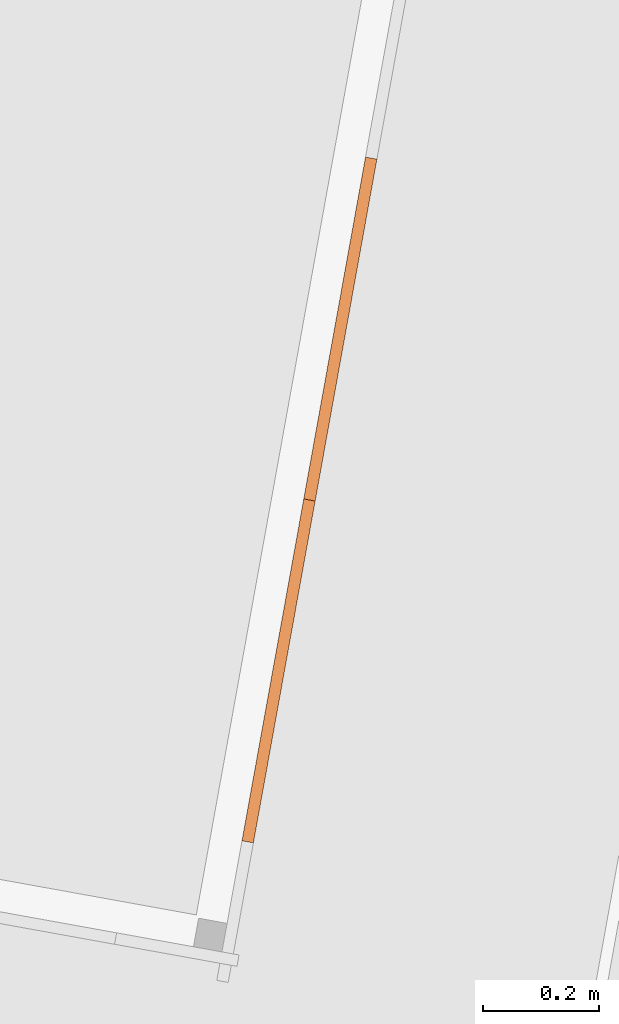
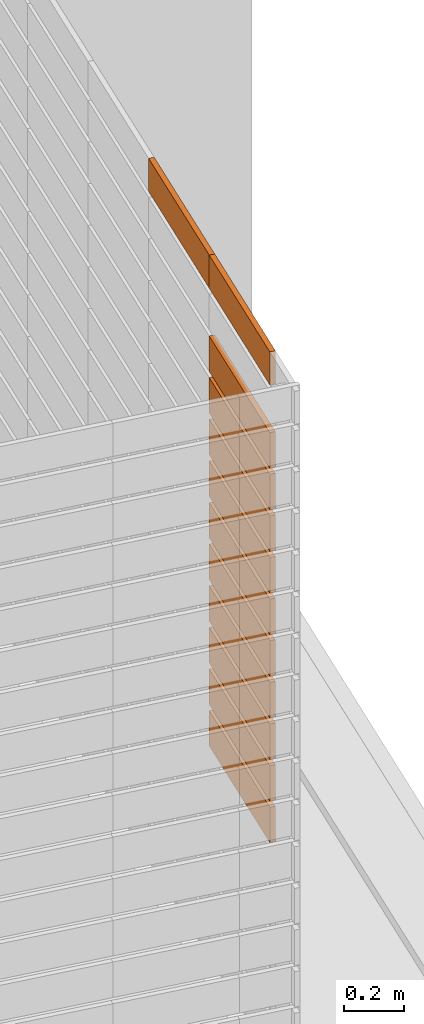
# One storey, part 31 of 52: 12 proxies, 1 element without a shape of its own.
"""IFC2X3 building model written with IfcOpenShell, lengths in metres."""

from ifc_helpers import new_model, entity, si_unit, converted_unit, derived_unit, money_unit, direction, frame, origin_with_axes, place, context, subcontext, project, spatial, polyline, outline, extrude, material, type_object, element, aggregate, save


model = new_model("IFC2X3")

# Units and contexts
model_context = context("Model", 3, precision=1e-05, world=origin_with_axes(), true_north=direction((0.0, 1.0)))
body_context = subcontext(model_context, "Body", "Model", "MODEL_VIEW")
ifc_project = project(units=[si_unit("LENGTHUNIT", "METRE"), si_unit("AREAUNIT", "SQUARE_METRE"), si_unit("VOLUMEUNIT", "CUBIC_METRE"), converted_unit("PLANEANGLEUNIT", "DEGREE", entity("IfcPlaneAngleMeasure", 0.0174532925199), si_unit("PLANEANGLEUNIT", "RADIAN"), dimensions=[0, 0, 0, 0, 0, 0, 0]), money_unit("CHF"), converted_unit("TIMEUNIT", "Year", entity("IfcTimeMeasure", 31556926.0), si_unit("TIMEUNIT", "SECOND"), dimensions=[0, 0, 1, 0, 0, 0, 0]), si_unit("MASSUNIT", "GRAM", prefix="KILO"), si_unit("THERMODYNAMICTEMPERATUREUNIT", "DEGREE_CELSIUS"), si_unit("LUMINOUSINTENSITYUNIT", "LUMEN"), si_unit("ENERGYUNIT", "JOULE", prefix="MEGA"), derived_unit("THERMALCONDUCTANCEUNIT", [(si_unit("POWERUNIT", "WATT"), 1), (si_unit("LENGTHUNIT", "METRE"), -1), (si_unit("THERMODYNAMICTEMPERATUREUNIT", "KELVIN"), -1)]), derived_unit("SPECIFICHEATCAPACITYUNIT", [(si_unit("ENERGYUNIT", "JOULE"), 1), (si_unit("MASSUNIT", "GRAM", prefix="KILO"), -1), (si_unit("THERMODYNAMICTEMPERATUREUNIT", "KELVIN"), -1)]), derived_unit("MASSDENSITYUNIT", [(si_unit("MASSUNIT", "GRAM", prefix="KILO"), 1), (si_unit("VOLUMEUNIT", "CUBIC_METRE"), -1)])], contexts=[model_context])

# Site, building, storey
site_placement = place(None, frame((0.0, 0.0, 0.0), z_axis=(0.0, 0.0, 1.0), x_axis=(-0.177771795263, -0.984071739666, 0.0)))
site = spatial("IfcSite", under=ifc_project, at=site_placement, Name="Site", CompositionType="ELEMENT")
building_placement = place(site_placement, origin_with_axes())
building = spatial("IfcBuilding", under=site, at=building_placement, Name="Bâtiment", CompositionType="ELEMENT")
storey_placement = place(building_placement, frame((0.0, 0.0, 3.2), z_axis=(0.0, 0.0, 1.0), x_axis=(1.0, 0.0, 0.0)))
storey = spatial("IfcBuildingStorey", under=building, at=storey_placement, Name="R+1", CompositionType="ELEMENT", Elevation=3.2)

# Curtain wall, proxies
curtain_wall_type = type_object("IfcCurtainWallType", Name="Type de mur-rideau", PredefinedType="NOTDEFINED")
curtain_wall_placement = place(storey_placement, frame((0.0, 0.0, -3.2), z_axis=(0.0, 0.0, 1.0), x_axis=(1.0, 0.0, 0.0)))
curtain_wall = element("IfcCurtainWall", 1, at=curtain_wall_placement, inside=storey, type_object=curtain_wall_type, Name="pare-vue CTA")
ifc_material = material(Name="Matériau de construction IFC")
building_element_proxy_type_1 = type_object("IfcBuildingElementProxyType", Name="Panneau principal 600 x 170 x 20", PredefinedType="NOTDEFINED")
proxy_1_placement = place(curtain_wall_placement, frame((140.854841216, -149.172151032, 4.1475), z_axis=(0.0, 0.0, 1.0), x_axis=(-1.0, 0.0, 0.0)))
proxy_1 = element("IfcBuildingElementProxy", 2, at=proxy_1_placement, type_object=building_element_proxy_type_1, material=ifc_material, Name="Panel-Main-512", context=body_context, shape_type="SweptSolid", body=[
    extrude(outline(polyline([(-0.3, -0.0725), (0.3, -0.0725), (0.3, 0.0725), (-0.3, 0.0725), (-0.3, -0.0725)])), frame((0.0, -0.00999999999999, 0.0), z_axis=(0.0, 1.0, 0.0), x_axis=(1.0, 0.0, 0.0)), (0.0, 0.0, 1.0), 0.02),
])
proxy_2_placement = place(curtain_wall_placement, frame((140.854841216, -149.172151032, 4.3175), z_axis=(0.0, 0.0, 1.0), x_axis=(-1.0, 0.0, 0.0)))
proxy_2 = element("IfcBuildingElementProxy", 3, at=proxy_2_placement, type_object=building_element_proxy_type_1, material=ifc_material, Name="Panel-Main-513", context=body_context, shape_type="SweptSolid", body=[
    extrude(outline(polyline([(-0.3, -0.0725), (0.3, -0.0725), (0.3, 0.0725), (-0.3, 0.0725), (-0.3, -0.0725)])), frame((0.0, -0.00999999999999, 0.0), z_axis=(0.0, 1.0, 0.0), x_axis=(1.0, 0.0, 0.0)), (0.0, 0.0, 1.0), 0.02),
])
proxy_3_placement = place(curtain_wall_placement, frame((140.854841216, -149.172151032, 4.4875), z_axis=(0.0, 0.0, 1.0), x_axis=(-1.0, 0.0, 0.0)))
proxy_3 = element("IfcBuildingElementProxy", 4, at=proxy_3_placement, type_object=building_element_proxy_type_1, material=ifc_material, Name="Panel-Main-514", context=body_context, shape_type="SweptSolid", body=[
    extrude(outline(polyline([(-0.3, -0.0725), (0.3, -0.0725), (0.3, 0.0725), (-0.3, 0.0725), (-0.3, -0.0725)])), frame((0.0, -0.00999999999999, 0.0), z_axis=(0.0, 1.0, 0.0), x_axis=(1.0, 0.0, 0.0)), (0.0, 0.0, 1.0), 0.02),
])
proxy_4_placement = place(curtain_wall_placement, frame((140.854841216, -149.172151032, 4.6575), z_axis=(0.0, 0.0, 1.0), x_axis=(-1.0, 0.0, 0.0)))
proxy_4 = element("IfcBuildingElementProxy", 5, at=proxy_4_placement, type_object=building_element_proxy_type_1, material=ifc_material, Name="Panel-Main-515", context=body_context, shape_type="SweptSolid", body=[
    extrude(outline(polyline([(-0.3, -0.0725), (0.3, -0.0725), (0.3, 0.0725), (-0.3, 0.0725), (-0.3, -0.0725)])), frame((0.0, -0.00999999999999, 0.0), z_axis=(0.0, 1.0, 0.0), x_axis=(1.0, 0.0, 0.0)), (0.0, 0.0, 1.0), 0.02),
])
proxy_5_placement = place(curtain_wall_placement, frame((140.854841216, -149.172151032, 4.8275), z_axis=(0.0, 0.0, 1.0), x_axis=(-1.0, 0.0, 0.0)))
proxy_5 = element("IfcBuildingElementProxy", 6, at=proxy_5_placement, type_object=building_element_proxy_type_1, material=ifc_material, Name="Panel-Main-516", context=body_context, shape_type="SweptSolid", body=[
    extrude(outline(polyline([(-0.3, -0.0725), (0.3, -0.0725), (0.3, 0.0725), (-0.3, 0.0725), (-0.3, -0.0725)])), frame((0.0, -0.00999999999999, 0.0), z_axis=(0.0, 1.0, 0.0), x_axis=(1.0, 0.0, 0.0)), (0.0, 0.0, 1.0), 0.02),
])
proxy_6_placement = place(curtain_wall_placement, frame((140.854841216, -149.172151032, 4.9975), z_axis=(0.0, 0.0, 1.0), x_axis=(-1.0, 0.0, 0.0)))
proxy_6 = element("IfcBuildingElementProxy", 7, at=proxy_6_placement, type_object=building_element_proxy_type_1, material=ifc_material, Name="Panel-Main-517", context=body_context, shape_type="SweptSolid", body=[
    extrude(outline(polyline([(-0.3, -0.0725), (0.3, -0.0725), (0.3, 0.0725), (-0.3, 0.0725), (-0.3, -0.0725)])), frame((0.0, -0.00999999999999, 0.0), z_axis=(0.0, 1.0, 0.0), x_axis=(1.0, 0.0, 0.0)), (0.0, 0.0, 1.0), 0.02),
])
proxy_7_placement = place(curtain_wall_placement, frame((140.854841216, -149.172151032, 5.3375), z_axis=(0.0, 0.0, 1.0), x_axis=(-1.0, 0.0, 0.0)))
proxy_7 = element("IfcBuildingElementProxy", 8, at=proxy_7_placement, type_object=building_element_proxy_type_1, material=ifc_material, Name="Panel-Main-519", context=body_context, shape_type="SweptSolid", body=[
    extrude(outline(polyline([(-0.3, -0.0725), (0.3, -0.0725), (0.3, 0.0725), (-0.3, 0.0725), (-0.3, -0.0725)])), frame((0.0, -0.00999999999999, 0.0), z_axis=(0.0, 1.0, 0.0), x_axis=(1.0, 0.0, 0.0)), (0.0, 0.0, 1.0), 0.02),
])
proxy_8_placement = place(curtain_wall_placement, frame((140.854841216, -149.172151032, 5.5075), z_axis=(0.0, 0.0, 1.0), x_axis=(-1.0, 0.0, 0.0)))
proxy_8 = element("IfcBuildingElementProxy", 9, at=proxy_8_placement, type_object=building_element_proxy_type_1, material=ifc_material, Name="Panel-Main-520", context=body_context, shape_type="SweptSolid", body=[
    extrude(outline(polyline([(-0.3, -0.0725), (0.3, -0.0725), (0.3, 0.0725), (-0.3, 0.0725), (-0.3, -0.0725)])), frame((0.0, -0.00999999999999, 0.0), z_axis=(0.0, 1.0, 0.0), x_axis=(1.0, 0.0, 0.0)), (0.0, 0.0, 1.0), 0.02),
])
proxy_9_placement = place(curtain_wall_placement, frame((140.854841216, -149.172151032, 5.6775), z_axis=(0.0, 0.0, 1.0), x_axis=(-1.0, 0.0, 0.0)))
proxy_9 = element("IfcBuildingElementProxy", 10, at=proxy_9_placement, type_object=building_element_proxy_type_1, material=ifc_material, Name="Panel-Main-521", context=body_context, shape_type="SweptSolid", body=[
    extrude(outline(polyline([(-0.3, -0.0725), (0.3, -0.0725), (0.3, 0.0725), (-0.3, 0.0725), (-0.3, -0.0725)])), frame((0.0, -0.00999999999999, 0.0), z_axis=(0.0, 1.0, 0.0), x_axis=(1.0, 0.0, 0.0)), (0.0, 0.0, 1.0), 0.02),
])
building_element_proxy_type_2 = type_object("IfcBuildingElementProxyType", Name="600 x 170 x 20", PredefinedType="NOTDEFINED")
proxy_10_placement = place(curtain_wall_placement, frame((140.854841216, -149.172151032, 5.1675), z_axis=(0.0, 0.0, 1.0), x_axis=(-1.0, 0.0, 0.0)))
proxy_10 = element("IfcBuildingElementProxy", 11, at=proxy_10_placement, type_object=building_element_proxy_type_2, material=ifc_material, Name="Panel-Main-190", context=body_context, shape_type="SweptSolid", body=[
    extrude(outline(polyline([(-0.3, -0.0725), (0.3, -0.0725), (0.3, 0.0725), (-0.3, 0.0725), (-0.3, -0.0725)])), frame((0.0, -0.00999999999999, 0.0), z_axis=(0.0, 1.0, 0.0), x_axis=(1.0, 0.0, 0.0)), (0.0, 0.0, 1.0), 0.02),
])
building_element_proxy_type_3 = type_object("IfcBuildingElementProxyType", Name="Panneau principal 600 x 147 x 20", PredefinedType="NOTDEFINED")
proxy_11_placement = place(curtain_wall_placement, frame((140.254841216, -149.172151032, 6.00624999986), z_axis=(0.0, 0.0, 1.0), x_axis=(-1.0, 0.0, 0.0)))
proxy_11 = element("IfcBuildingElementProxy", 12, at=proxy_11_placement, type_object=building_element_proxy_type_3, material=ifc_material, Name="Panel-Main-256", context=body_context, shape_type="SweptSolid", body=[
    extrude(outline(polyline([(-0.3, -0.0737500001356), (0.3, -0.0737500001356), (0.3, 0.0612499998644), (-0.3, 0.0612499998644), (-0.3, -0.0737500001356)])), frame((0.0, -0.00999999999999, 0.0), z_axis=(0.0, 1.0, 0.0), x_axis=(1.0, 0.0, 0.0)), (0.0, 0.0, 1.0), 0.02),
])
proxy_12_placement = place(curtain_wall_placement, frame((140.854841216, -149.172151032, 6.00624999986), z_axis=(0.0, 0.0, 1.0), x_axis=(-1.0, 0.0, 0.0)))
proxy_12 = element("IfcBuildingElementProxy", 13, at=proxy_12_placement, type_object=building_element_proxy_type_3, material=ifc_material, Name="Panel-Main-255", context=body_context, shape_type="SweptSolid", body=[
    extrude(outline(polyline([(-0.3, -0.0737500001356), (0.3, -0.0737500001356), (0.3, 0.0612499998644), (-0.3, 0.0612499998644), (-0.3, -0.0737500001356)])), frame((0.0, -0.00999999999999, 0.0), z_axis=(0.0, 1.0, 0.0), x_axis=(1.0, 0.0, 0.0)), (0.0, 0.0, 1.0), 0.02),
])
aggregate(curtain_wall, [proxy_1, proxy_2, proxy_3, proxy_4, proxy_5, proxy_6, proxy_10, proxy_7, proxy_8, proxy_9, proxy_11, proxy_12])

save(model, "model.ifc")
